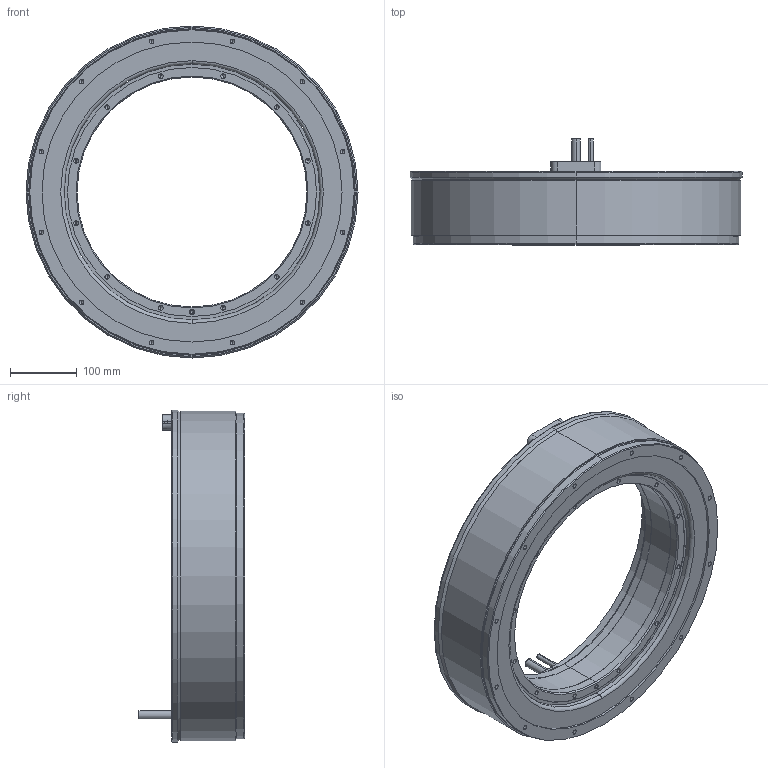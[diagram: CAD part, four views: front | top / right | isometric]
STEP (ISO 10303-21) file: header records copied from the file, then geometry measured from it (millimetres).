
FILE_DESCRIPTION (( 'STEP AP203' ), '1' );
FILE_NAME ('TM-2-D7-SA0(J0).STEP', '2023-06-06T03:20:03', ( '' ), ( '' ), 'SwSTEP 2.0', 'SolidWorks 2015', '' );
FILE_SCHEMA (( 'CONFIG_CONTROL_DESIGN' ));
Length unit declared in the file: millimetre
Products named in the file (3): TM-2-D7-SA0(J0); TM-2-D7-SA0(J0)_Stator; TM-2-D7(J0)_Rotor
Assembly tree (2 placements, depth 2):
  TM-2-D7-SA0(J0)
    TM-2-D7-SA0(J0)_Stator
    TM-2-D7(J0)_Rotor
Bounding box: 498 x 159 x 498 mm (x, y, z)
Volume: 9644989.2 mm3; surface area: 694313.7 mm2
Topology: 2 solids, 2 shells, 343 faces, 816 edges, 445 vertices
Faces by surface type: cylinder 158, cone 126, plane 51, torus 8
Entity records: 9431 total; most frequent: DIRECTION 1760, CARTESIAN_POINT 1503, ORIENTED_EDGE 1420, EDGE_CURVE 710, AXIS2_PLACEMENT_3D 702, VERTEX_POINT 445, EDGE_LOOP 421, VECTOR 356
